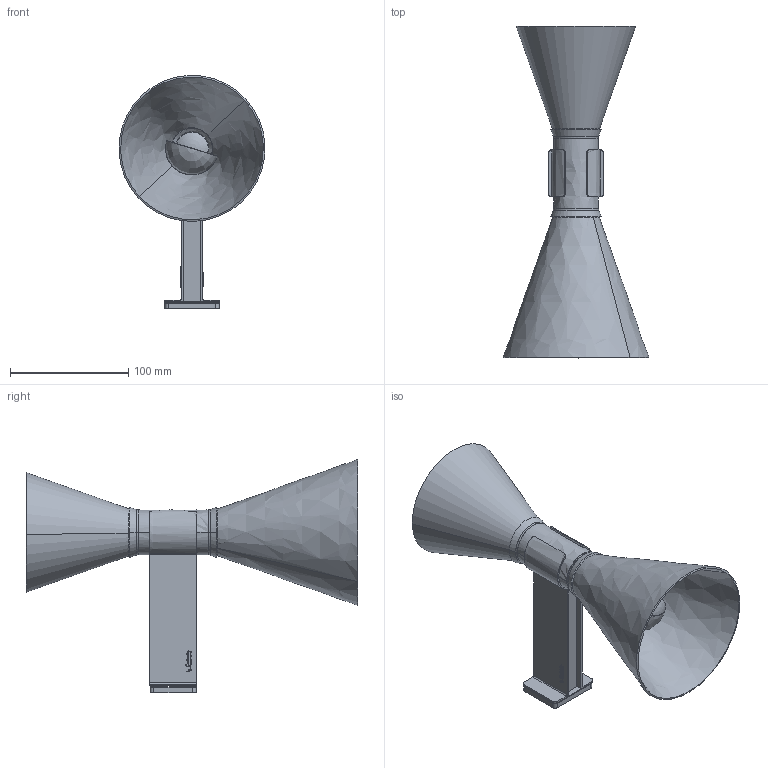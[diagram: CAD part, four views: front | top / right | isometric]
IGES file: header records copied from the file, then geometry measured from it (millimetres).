
Start section: SolidWorks IGES file using analytic representation for surfaces
Global section: file name: C:\Users\MarcoErba\Desktop\aaa\app marseille mini\800AMMMDD311-ADM_mini.IGS; native system: SolidWorks 2016; preprocessor: SolidWorks 2016; author: MarcoErba; date: 230120.095018; units: millimetre
Bounding box: 123.64 x 281.1 x 197.52 mm (x, y, z)
Surface area: 206438.6 mm2 (no closed solid volume)
Topology: 0 solids, 0 shells, 399 faces, 5142 edges, 5138 vertices
Faces by surface type: bspline 285, revolution 114
